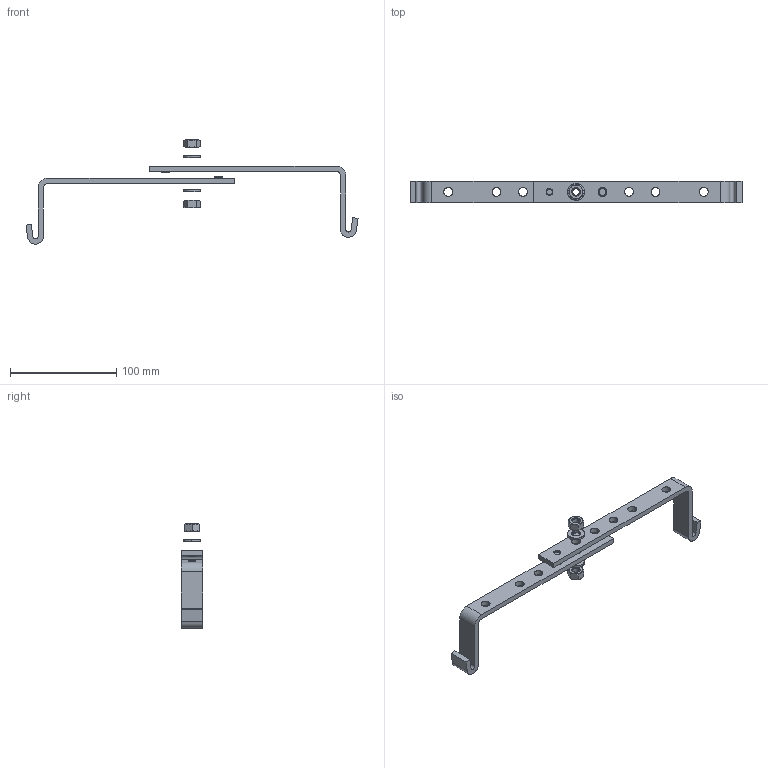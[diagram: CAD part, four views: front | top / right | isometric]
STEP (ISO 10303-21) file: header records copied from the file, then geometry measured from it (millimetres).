
FILE_DESCRIPTION(/* description */ (''),/* implementation_level */ '2;1');
FILE_NAME(/* name */ 'DZM04',/* time_stamp */ '2012-11-29T22:44:34+01:00',/* author */ (''),/* organization */ (''),/* preprocessor_version */ 'ST-DEVELOPER v10',/* originating_system */ '',/* authorisation */ '');
FILE_SCHEMA (('AUTOMOTIVE_DESIGN_CC2'));
Length unit declared in the file: millimetre
Products named in the file (1): 1
Bounding box: 313.08 x 20 x 98.28 mm (x, y, z)
Surface area: 29090.4 mm2 (no closed solid volume)
Topology: 0 solids, 84 shells, 116 faces, 446 edges, 384 vertices
Faces by surface type: bspline 72, plane 44
Entity records: 9094 total; most frequent: CARTESIAN_POINT 5994, ORIENTED_EDGE 508, EDGE_CURVE 444, VERTEX_POINT 380, B_SPLINE_CURVE_WITH_KNOTS 330, EDGE_LOOP 148, ADVANCED_FACE 116, FACE_OUTER_BOUND 116
